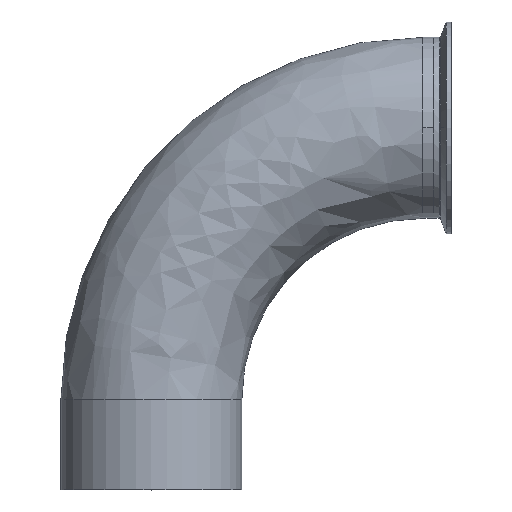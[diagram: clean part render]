
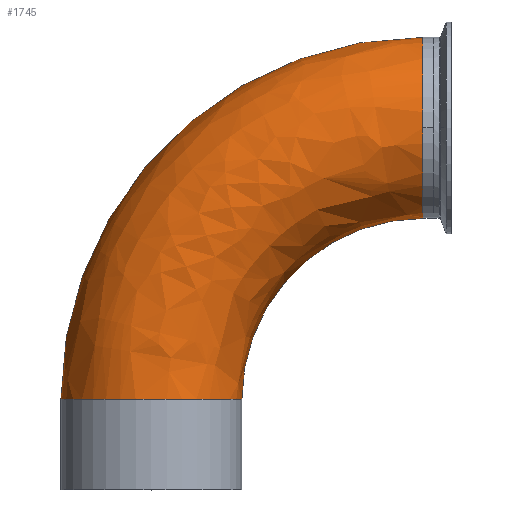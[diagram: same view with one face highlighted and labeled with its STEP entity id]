
A CAD part, top view. The second image highlights one B-rep face of the part: STEP entity #1745.
In plain terms, the highlighted free-form (B-spline) face has degree [3, 3] with [4, 4] control points.
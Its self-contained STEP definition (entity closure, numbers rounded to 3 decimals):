
#14 = CIRCLE ( 'NONE', #1113, 203.2 ) ;
#59 = CARTESIAN_POINT ( 'NONE',  ( 152.4, 152.4, 0. ) ) ;
#76 = CARTESIAN_POINT ( 'NONE',  ( 92.884, 152.4, 0. ) ) ;
#107 = CARTESIAN_POINT ( 'NONE',  ( 50.8, 50.8, 0. ) ) ;
#122 = CARTESIAN_POINT ( 'NONE',  ( 50.8, 110.316, 0. ) ) ;
#126 = VERTEX_POINT ( 'NONE', #225 ) ;
#130 = CARTESIAN_POINT ( 'NONE',  ( 50.8, 110.316, 101.6 ) ) ;
#140 = CARTESIAN_POINT ( 'NONE',  ( 92.884, 152.4, 101.6 ) ) ;
#192 = DIRECTION ( 'NONE',  ( 0., 1., 0. ) ) ;
#198 = EDGE_CURVE ( 'NONE', #1366, #1316, #1566, .T. ) ;
#207 = CARTESIAN_POINT ( 'NONE',  ( 152.4, 203.2, 0. ) ) ;
#214 = DIRECTION ( 'NONE',  ( -1., 0., 0. ) ) ;
#225 = CARTESIAN_POINT ( 'NONE',  ( -50.8, 50.8, 0. ) ) ;
#238 = CARTESIAN_POINT ( 'NONE',  ( 152.4, 152.4, 101.6 ) ) ;
#242 = DIRECTION ( 'NONE',  ( 0., 0., -1. ) ) ;
#245 = CARTESIAN_POINT ( 'NONE',  ( 152.4, 254., 101.6 ) ) ;
#256 = CARTESIAN_POINT ( 'NONE',  ( 50.8, 50.8, 101.6 ) ) ;
#263 = CARTESIAN_POINT ( 'NONE',  ( -50.8, 169.832, 0. ) ) ;
#270 = CARTESIAN_POINT ( 'NONE',  ( -50.8, 50.8, 101.6 ) ) ;
#278 = CARTESIAN_POINT ( 'NONE',  ( 33.368, 254., 0. ) ) ;
#317 = ORIENTED_EDGE ( 'NONE', *, *, #499, .T. ) ;
#340 = CARTESIAN_POINT ( 'NONE',  ( 50.8, 50.8, 0. ) ) ;
#374 = CARTESIAN_POINT ( 'NONE',  ( 152.4, 203.2, 0. ) ) ;
#385 = CARTESIAN_POINT ( 'NONE',  ( 152.4, 254., 0. ) ) ;
#422 = EDGE_CURVE ( 'NONE', #612, #1490, #470, .T. ) ;
#438 = DIRECTION ( 'NONE',  ( 0., 0., -1. ) ) ;
#470 = CIRCLE ( 'NONE', #1550, 101.6 ) ;
#471 = AXIS2_PLACEMENT_3D ( 'NONE', #374, #1101, #1034 ) ;
#499 = EDGE_CURVE ( 'NONE', #126, #612, #933, .T. ) ;
#576 = CARTESIAN_POINT ( 'NONE',  ( 152.4, 50.8, 0. ) ) ;
#612 = VERTEX_POINT ( 'NONE', #340 ) ;
#682 = EDGE_LOOP ( 'NONE', ( #317, #1648, #938, #1787, #1832 ) ) ;
#694 = CARTESIAN_POINT ( 'NONE',  ( -50.8, 169.832, 101.6 ) ) ;
#715 = CARTESIAN_POINT ( 'NONE',  ( 152.4, 152.4, 0. ) ) ;
#851 = CARTESIAN_POINT ( 'NONE',  ( 152.4, 50.8, 0. ) ) ;
#879 = CARTESIAN_POINT ( 'NONE',  ( 33.368, 254., 101.6 ) ) ;
#888 = DIRECTION ( 'NONE',  ( -1., 0., 0. ) ) ;
#895 = CARTESIAN_POINT ( 'NONE',  ( -50.8, 50.8, 0. ) ) ;
#913 =( BOUNDED_SURFACE ( )  B_SPLINE_SURFACE ( 3, 3, ( 
 ( #895, #263, #278, #385 ),
 ( #270, #694, #879, #245 ),
 ( #256, #130, #140, #238 ),
 ( #107, #122, #76, #59 ) ),
 .UNSPECIFIED., .F., .F., .F. ) 
 B_SPLINE_SURFACE_WITH_KNOTS ( ( 4, 4 ),
 ( 4, 4 ),
 ( 0., 1. ),
 ( 0., 1. ),
 .UNSPECIFIED. ) 
 GEOMETRIC_REPRESENTATION_ITEM ( )  RATIONAL_B_SPLINE_SURFACE ( (
 ( 1., 0.805, 0.805, 1.),
 ( 0.333, 0.268, 0.268, 0.333),
 ( 0.333, 0.268, 0.268, 0.333),
 ( 1., 0.805, 0.805, 1.) ) ) 
 REPRESENTATION_ITEM ( '' )  SURFACE ( )  );
#933 = CIRCLE ( 'NONE', #1107, 50.8 ) ;
#938 = ORIENTED_EDGE ( 'NONE', *, *, #1784, .T. ) ;
#1034 = DIRECTION ( 'NONE',  ( 0., 1., 0. ) ) ;
#1101 = DIRECTION ( 'NONE',  ( -1., 0., 0. ) ) ;
#1107 = AXIS2_PLACEMENT_3D ( 'NONE', #1967, #1972, #1540 ) ;
#1113 = AXIS2_PLACEMENT_3D ( 'NONE', #576, #438, #888 ) ;
#1316 = VERTEX_POINT ( 'NONE', #1429 ) ;
#1366 = VERTEX_POINT ( 'NONE', #1699 ) ;
#1402 = DIRECTION ( 'NONE',  ( -1., 0., 0. ) ) ;
#1428 = CIRCLE ( 'NONE', #1695, 50.8 ) ;
#1429 = CARTESIAN_POINT ( 'NONE',  ( 152.4, 254., 0. ) ) ;
#1490 = VERTEX_POINT ( 'NONE', #715 ) ;
#1540 = DIRECTION ( 'NONE',  ( -1., 0., 0. ) ) ;
#1550 = AXIS2_PLACEMENT_3D ( 'NONE', #851, #242, #1402 ) ;
#1566 = CIRCLE ( 'NONE', #471, 50.8 ) ;
#1648 = ORIENTED_EDGE ( 'NONE', *, *, #422, .T. ) ;
#1688 = EDGE_CURVE ( 'NONE', #126, #1316, #14, .T. ) ;
#1695 = AXIS2_PLACEMENT_3D ( 'NONE', #207, #214, #192 ) ;
#1699 = CARTESIAN_POINT ( 'NONE',  ( 152.4, 203.2, 50.8 ) ) ;
#1745 = ADVANCED_FACE ( 'NONE', ( #1908 ), #913, .T. ) ;
#1784 = EDGE_CURVE ( 'NONE', #1490, #1366, #1428, .T. ) ;
#1787 = ORIENTED_EDGE ( 'NONE', *, *, #198, .T. ) ;
#1832 = ORIENTED_EDGE ( 'NONE', *, *, #1688, .F. ) ;
#1908 = FACE_OUTER_BOUND ( 'NONE', #682, .T. ) ;
#1967 = CARTESIAN_POINT ( 'NONE',  ( 0., 50.8, 0. ) ) ;
#1972 = DIRECTION ( 'NONE',  ( 0., 1., 0. ) ) ;
